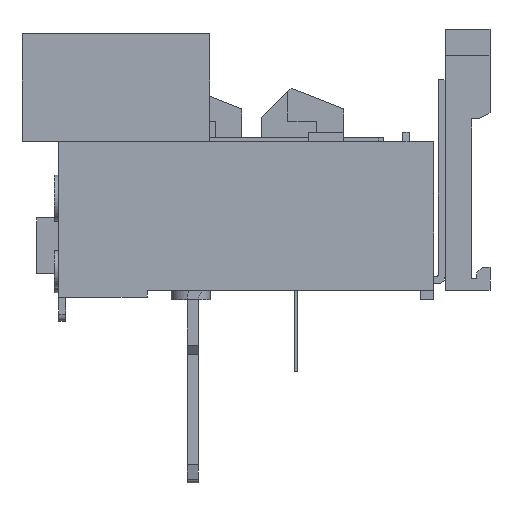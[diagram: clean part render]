
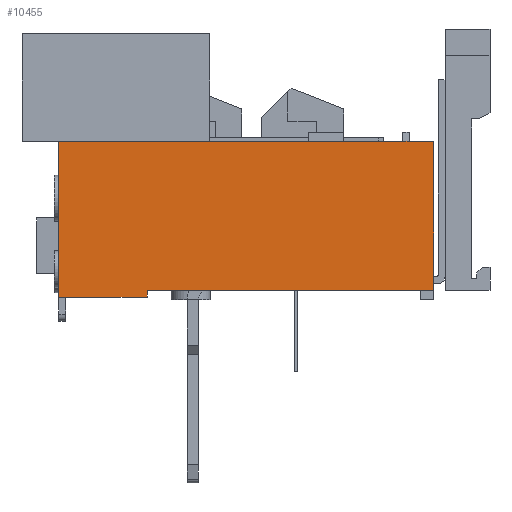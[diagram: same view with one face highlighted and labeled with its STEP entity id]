
A CAD part, left-side view. The second image highlights one B-rep face of the part: STEP entity #10455.
In plain terms, the highlighted planar face has unit normal (-1, 0, 0).
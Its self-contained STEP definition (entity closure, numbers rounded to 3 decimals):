
#199 = VECTOR ( 'NONE', #12803, 1000. ) ;
#477 = EDGE_CURVE ( 'NONE', #2563, #7405, #13273, .T. ) ;
#834 = DIRECTION ( 'NONE',  ( 0., 0., -1. ) ) ;
#1207 = ORIENTED_EDGE ( 'NONE', *, *, #9531, .F. ) ;
#1549 = EDGE_CURVE ( 'NONE', #7405, #13599, #2431, .T. ) ;
#1751 = CARTESIAN_POINT ( 'NONE',  ( -33.6, 0., 16.25 ) ) ;
#2162 = CARTESIAN_POINT ( 'NONE',  ( -33.6, 81.8, 16.25 ) ) ;
#2203 = VECTOR ( 'NONE', #6570, 1000. ) ;
#2280 = ORIENTED_EDGE ( 'NONE', *, *, #6935, .F. ) ;
#2300 = LINE ( 'NONE', #4111, #14396 ) ;
#2431 = LINE ( 'NONE', #7531, #8326 ) ;
#2563 = VERTEX_POINT ( 'NONE', #13378 ) ;
#3042 = CARTESIAN_POINT ( 'NONE',  ( -33.6, 62.5, -16.25 ) ) ;
#3065 = LINE ( 'NONE', #12489, #12247 ) ;
#3343 = ORIENTED_EDGE ( 'NONE', *, *, #1549, .F. ) ;
#3438 = VECTOR ( 'NONE', #10586, 1000. ) ;
#3879 = CARTESIAN_POINT ( 'NONE',  ( -33.6, 6.8, 16.25 ) ) ;
#4111 = CARTESIAN_POINT ( 'NONE',  ( -33.6, 62.5, -17.75 ) ) ;
#4240 = PLANE ( 'NONE',  #10659 ) ;
#4438 = DIRECTION ( 'NONE',  ( 0., -1., 0. ) ) ;
#4687 = EDGE_CURVE ( 'NONE', #10462, #7826, #8442, .T. ) ;
#4826 = EDGE_CURVE ( 'NONE', #7826, #7610, #3065, .T. ) ;
#4887 = LINE ( 'NONE', #9384, #10683 ) ;
#5704 = CARTESIAN_POINT ( 'NONE',  ( -33.6, 0., -16.25 ) ) ;
#5759 = EDGE_CURVE ( 'NONE', #9321, #10462, #4887, .T. ) ;
#6131 = LINE ( 'NONE', #2162, #14709 ) ;
#6146 = ORIENTED_EDGE ( 'NONE', *, *, #4826, .T. ) ;
#6267 = EDGE_LOOP ( 'NONE', ( #1207, #2280, #3343, #11335, #9776, #13710, #6528, #6146 ) ) ;
#6528 = ORIENTED_EDGE ( 'NONE', *, *, #4687, .T. ) ;
#6570 = DIRECTION ( 'NONE',  ( 0., -1., 0. ) ) ;
#6935 = EDGE_CURVE ( 'NONE', #13599, #8346, #12355, .T. ) ;
#7152 = EDGE_CURVE ( 'NONE', #9321, #2563, #2300, .T. ) ;
#7204 = CARTESIAN_POINT ( 'NONE',  ( -33.6, 81.8, 16.25 ) ) ;
#7405 = VERTEX_POINT ( 'NONE', #10649 ) ;
#7531 = CARTESIAN_POINT ( 'NONE',  ( -33.6, 81.8, 16.25 ) ) ;
#7610 = VERTEX_POINT ( 'NONE', #1751 ) ;
#7826 = VERTEX_POINT ( 'NONE', #5704 ) ;
#7834 = DIRECTION ( 'NONE',  ( 1., 0., 0. ) ) ;
#8244 = DIRECTION ( 'NONE',  ( 0., 0., 1. ) ) ;
#8326 = VECTOR ( 'NONE', #10948, 1000. ) ;
#8346 = VERTEX_POINT ( 'NONE', #10091 ) ;
#8442 = LINE ( 'NONE', #9998, #2203 ) ;
#8913 = FACE_OUTER_BOUND ( 'NONE', #6267, .T. ) ;
#9321 = VERTEX_POINT ( 'NONE', #13098 ) ;
#9384 = CARTESIAN_POINT ( 'NONE',  ( -33.6, 62.5, -17.75 ) ) ;
#9531 = EDGE_CURVE ( 'NONE', #8346, #7610, #6131, .T. ) ;
#9776 = ORIENTED_EDGE ( 'NONE', *, *, #7152, .F. ) ;
#9998 = CARTESIAN_POINT ( 'NONE',  ( -33.6, 81.8, -16.25 ) ) ;
#10091 = CARTESIAN_POINT ( 'NONE',  ( -33.6, 5.3, 16.25 ) ) ;
#10455 = ADVANCED_FACE ( 'NONE', ( #8913 ), #4240, .F. ) ;
#10462 = VERTEX_POINT ( 'NONE', #3042 ) ;
#10586 = DIRECTION ( 'NONE',  ( 0., 0., 1. ) ) ;
#10649 = CARTESIAN_POINT ( 'NONE',  ( -33.6, 81.8, 16.25 ) ) ;
#10659 = AXIS2_PLACEMENT_3D ( 'NONE', #14458, #7834, #834 ) ;
#10683 = VECTOR ( 'NONE', #8244, 1000. ) ;
#10948 = DIRECTION ( 'NONE',  ( 0., -1., 0. ) ) ;
#11335 = ORIENTED_EDGE ( 'NONE', *, *, #477, .F. ) ;
#11725 = CARTESIAN_POINT ( 'NONE',  ( -33.6, 7.3, 16.25 ) ) ;
#12185 = DIRECTION ( 'NONE',  ( 0., 1., 0. ) ) ;
#12247 = VECTOR ( 'NONE', #13585, 1000. ) ;
#12355 = LINE ( 'NONE', #11725, #199 ) ;
#12489 = CARTESIAN_POINT ( 'NONE',  ( -33.6, 0., 16.25 ) ) ;
#12803 = DIRECTION ( 'NONE',  ( 0., -1., 0. ) ) ;
#13098 = CARTESIAN_POINT ( 'NONE',  ( -33.6, 62.5, -17.75 ) ) ;
#13273 = LINE ( 'NONE', #7204, #3438 ) ;
#13378 = CARTESIAN_POINT ( 'NONE',  ( -33.6, 81.8, -17.75 ) ) ;
#13585 = DIRECTION ( 'NONE',  ( 0., 0., 1. ) ) ;
#13599 = VERTEX_POINT ( 'NONE', #3879 ) ;
#13710 = ORIENTED_EDGE ( 'NONE', *, *, #5759, .T. ) ;
#14396 = VECTOR ( 'NONE', #12185, 1000. ) ;
#14458 = CARTESIAN_POINT ( 'NONE',  ( -33.6, 81.8, 16.25 ) ) ;
#14709 = VECTOR ( 'NONE', #4438, 1000. ) ;
